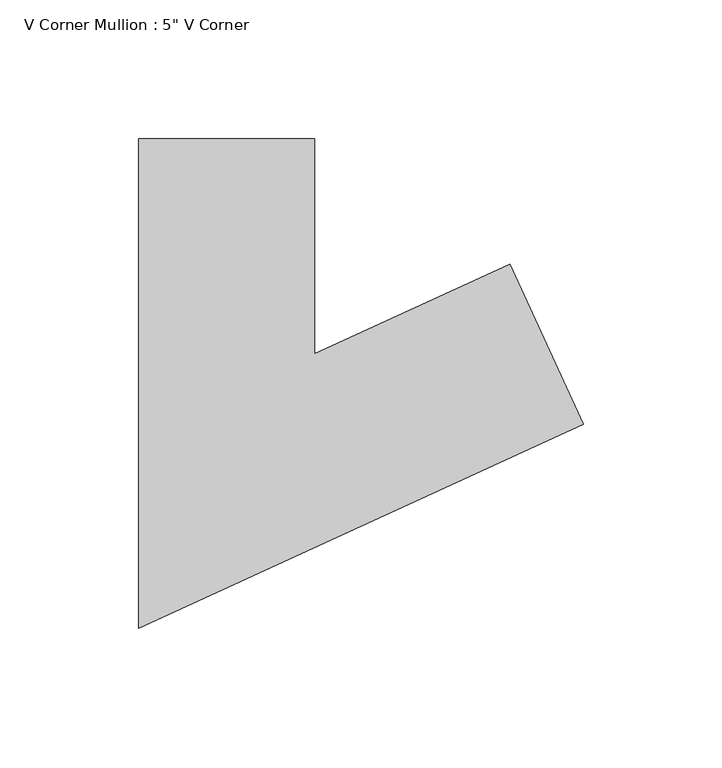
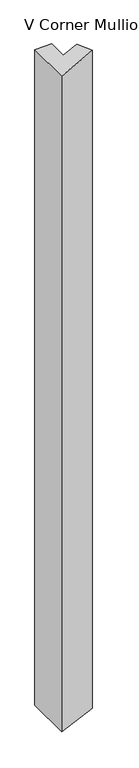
"""IFC4 building model written with IfcOpenShell, lengths in millimetres: member geometry."""

from ifc_helpers import new_model, si_unit, origin, place, context, project, spatial, faceted_brep, source, transform, mapped, element, save


def member_9db91060(model_context):
    return source(origin(), model_context, "Body", "Brep", [
        faceted_brep([(61.49523, 18.2208415, 1.2597335), (87.9205542, -39.5195451, 1.8010579), (87.9205542, -39.5195451, -2654.0559456), (61.49523, 18.2208415, -2653.0670946), (-9.0228811, -14.0523047, -0.1848343), (-9.0228811, -14.0523047, -2650.4282658), (-9.0228811, 63.5, -0.1848343), (-9.0228811, 63.5, -2650.4282658), (-72.5228811, 63.5, -1.4856356), (-72.5228811, 63.5, -2648.0520588), (-72.5228811, -112.9476953, -1.4856356), (-72.5228811, -112.9476953, -2648.0520588)], [[[0, 1, 2, 3]], [[4, 0, 3, 5]], [[6, 4, 5, 7]], [[8, 6, 7, 9]], [[10, 8, 9, 11]], [[1, 10, 11, 2]], [[1, 0, 4, 6, 8, 10]], [[2, 11, 9, 7, 5, 3]]]),
    ])


if __name__ == "__main__":
    model = new_model("IFC4")
    model_context = context("Model", 3, world=origin())
    ifc_project = project(units=[si_unit("LENGTHUNIT", "METRE", prefix="MILLI")], contexts=[model_context])
    site = spatial("IfcSite", under=ifc_project)
    building = spatial("IfcBuilding", under=site)
    placement = place(None, origin())
    member_shape = member_9db91060(model_context)
    element("IfcMember", 1, ObjectType="V Corner Mullion : 5\" V Corner", at=placement, inside=building, context=model_context, shape_type="MappedRepresentation", body=[
        mapped(member_shape, transform((0.0, 0.0, 0.0), x_axis=(1.0, 0.0, 0.0), y_axis=(0.0, 1.0, 0.0), z_axis=(0.0, 0.0, 1.0))),
    ])
    save(model, "model.ifc")
